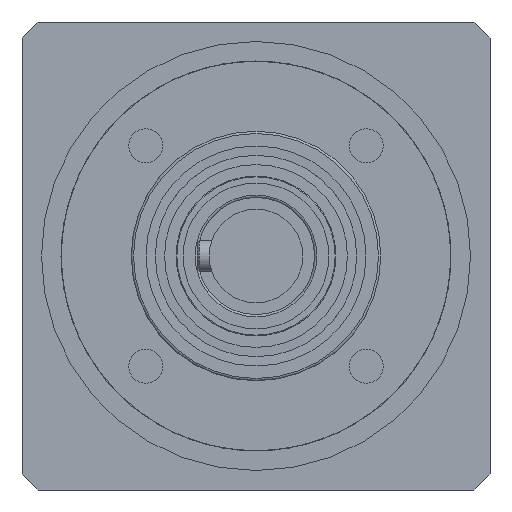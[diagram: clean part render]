
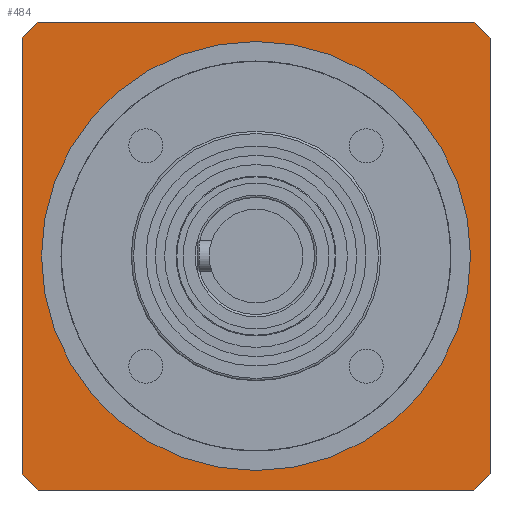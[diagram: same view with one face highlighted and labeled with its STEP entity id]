
A CAD part, left-side view. The second image highlights one B-rep face of the part: STEP entity #484.
In plain terms, the highlighted planar face has unit normal (-1, 0, 0).
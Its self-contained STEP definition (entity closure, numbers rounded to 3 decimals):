
#422=PLANE('',#1920);
#484=ADVANCED_FACE('',(#670),#422,.T.);
#670=FACE_OUTER_BOUND('',#721,.T.);
#721=EDGE_LOOP('',(#1153,#1154,#1155,#1156,#1157,#1158,#1159,#1160));
#967=LINE('',#2884,#1021);
#968=LINE('',#2888,#1022);
#969=LINE('',#2892,#1023);
#970=LINE('',#2896,#1024);
#1021=VECTOR('',#2268,1.);
#1022=VECTOR('',#2271,1.);
#1023=VECTOR('',#2274,1.);
#1024=VECTOR('',#2277,1.);
#1153=ORIENTED_EDGE('',*,*,#1622,.F.);
#1154=ORIENTED_EDGE('',*,*,#1623,.F.);
#1155=ORIENTED_EDGE('',*,*,#1624,.F.);
#1156=ORIENTED_EDGE('',*,*,#1625,.F.);
#1157=ORIENTED_EDGE('',*,*,#1626,.F.);
#1158=ORIENTED_EDGE('',*,*,#1627,.F.);
#1159=ORIENTED_EDGE('',*,*,#1628,.F.);
#1160=ORIENTED_EDGE('',*,*,#1629,.F.);
#1437=VERTEX_POINT('',#2882);
#1438=VERTEX_POINT('',#2883);
#1439=VERTEX_POINT('',#2885);
#1440=VERTEX_POINT('',#2887);
#1441=VERTEX_POINT('',#2889);
#1442=VERTEX_POINT('',#2891);
#1443=VERTEX_POINT('',#2893);
#1444=VERTEX_POINT('',#2895);
#1622=EDGE_CURVE('',#1437,#1438,#1763,.T.);
#1623=EDGE_CURVE('',#1439,#1437,#967,.T.);
#1624=EDGE_CURVE('',#1440,#1439,#1764,.T.);
#1625=EDGE_CURVE('',#1441,#1440,#968,.T.);
#1626=EDGE_CURVE('',#1442,#1441,#1765,.T.);
#1627=EDGE_CURVE('',#1443,#1442,#969,.T.);
#1628=EDGE_CURVE('',#1444,#1443,#1766,.T.);
#1629=EDGE_CURVE('',#1438,#1444,#970,.T.);
#1763=CIRCLE('',#1916,41.);
#1764=CIRCLE('',#1917,41.);
#1765=CIRCLE('',#1918,41.);
#1766=CIRCLE('',#1919,41.);
#1916=AXIS2_PLACEMENT_3D('',#2881,#2266,#2267);
#1917=AXIS2_PLACEMENT_3D('',#2886,#2269,#2270);
#1918=AXIS2_PLACEMENT_3D('',#2890,#2272,#2273);
#1919=AXIS2_PLACEMENT_3D('',#2894,#2275,#2276);
#1920=AXIS2_PLACEMENT_3D('',#2897,#2278,#2279);
#2266=DIRECTION('',(1.,0.,0.));
#2267=DIRECTION('',(0.,0.,1.));
#2268=DIRECTION('',(0.,-1.,0.));
#2269=DIRECTION('',(1.,0.,0.));
#2270=DIRECTION('',(0.,1.,0.));
#2271=DIRECTION('',(0.,0.,1.));
#2272=DIRECTION('',(1.,0.,0.));
#2273=DIRECTION('',(0.,0.,-1.));
#2274=DIRECTION('',(0.,1.,0.));
#2275=DIRECTION('',(1.,0.,0.));
#2276=DIRECTION('',(0.,-1.,0.));
#2277=DIRECTION('',(0.,0.,-1.));
#2278=DIRECTION('',(-1.,0.,0.));
#2279=DIRECTION('',(0.,1.,0.));
#2881=CARTESIAN_POINT('',(0.,0.,0.));
#2882=CARTESIAN_POINT('',(0.,-27.946,30.));
#2883=CARTESIAN_POINT('',(0.,-30.,27.946));
#2884=CARTESIAN_POINT('',(0.,0.,30.));
#2885=CARTESIAN_POINT('',(0.,27.946,30.));
#2886=CARTESIAN_POINT('',(0.,0.,0.));
#2887=CARTESIAN_POINT('',(0.,30.,27.946));
#2888=CARTESIAN_POINT('',(0.,30.,0.));
#2889=CARTESIAN_POINT('',(0.,30.,-27.946));
#2890=CARTESIAN_POINT('',(0.,0.,0.));
#2891=CARTESIAN_POINT('',(0.,27.946,-30.));
#2892=CARTESIAN_POINT('',(0.,0.,-30.));
#2893=CARTESIAN_POINT('',(0.,-27.946,-30.));
#2894=CARTESIAN_POINT('',(0.,0.,0.));
#2895=CARTESIAN_POINT('',(0.,-30.,-27.946));
#2896=CARTESIAN_POINT('',(0.,-30.,0.));
#2897=CARTESIAN_POINT('',(0.,0.,0.));
